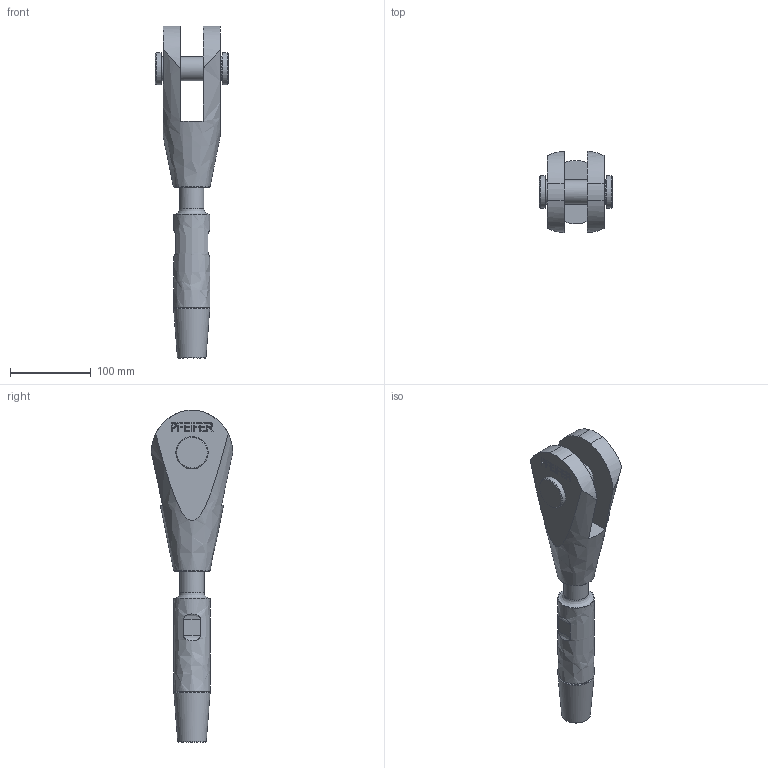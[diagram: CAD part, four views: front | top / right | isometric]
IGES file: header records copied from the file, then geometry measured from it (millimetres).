
Global section: file name: 520-030-GAK-ADA; native system: Autodesk Inventor 2016; preprocessor: unknown; author: Administrator; date: 20200703.130726; units: centimetre
Bounding box: 90.75 x 100.87 x 411.4 mm (x, y, z)
Volume: 910871.8 mm3; surface area: 116449.8 mm2
Topology: 2 solids, 3 shells, 198 faces, 522 edges, 351 vertices
Faces by surface type: bspline 198
